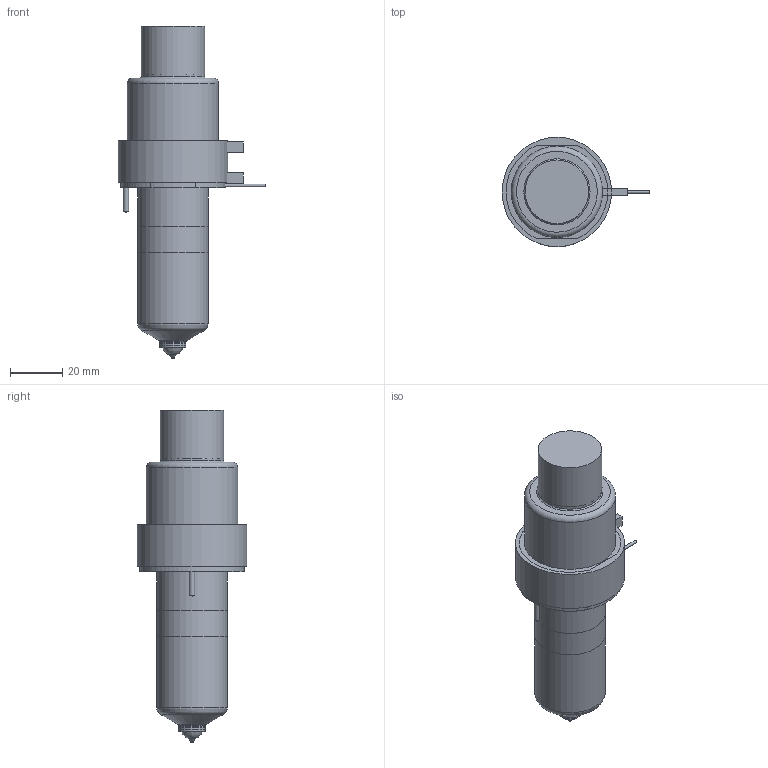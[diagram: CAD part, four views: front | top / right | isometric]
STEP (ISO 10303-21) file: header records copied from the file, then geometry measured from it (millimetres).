
FILE_DESCRIPTION(/* description */ (''),/* implementation_level */ '2;1');
FILE_NAME(/* name */ 'SXTT-SXIT13065_200C_b',/* time_stamp */ '2007-01-24T17:20:28+13:00',/* author */ (''),/* organization */ (''),/* preprocessor_version */ 'ST-DEVELOPER v9',/* originating_system */ 'UGS - NX 4.0',/* authorisation */ '');
FILE_SCHEMA (('CONFIG_CONTROL_DESIGN'));
Length unit declared in the file: millimetre
Products named in the file (1): SXTT-SXIT13065_200C_b
Bounding box: 56.65 x 42 x 127.37 mm (x, y, z)
Volume: 157142.5 mm3; surface area: 28483 mm2
Topology: 7 solids, 7 shells, 96 faces, 188 edges, 120 vertices
Faces by surface type: plane 45, cylinder 28, cone 11, torus 10, bspline 2
Full cylindrical faces by diameter (mm): 0.9 x1, 1 x3, 2 x2, 6 x1, 9.61 x1, 10.01 x2, 12.6 x1, 22.2 x1, 24 x1, 24.4 x1, 27 x2, 31.8 x1, 35 x1, 40 x1, 42 x1
Entity records: 2353 total; most frequent: CARTESIAN_POINT 477, DIRECTION 396, ORIENTED_EDGE 276, AXIS2_PLACEMENT_3D 173, EDGE_LOOP 150, EDGE_CURVE 138, VERTEX_POINT 111, ADVANCED_FACE 96
